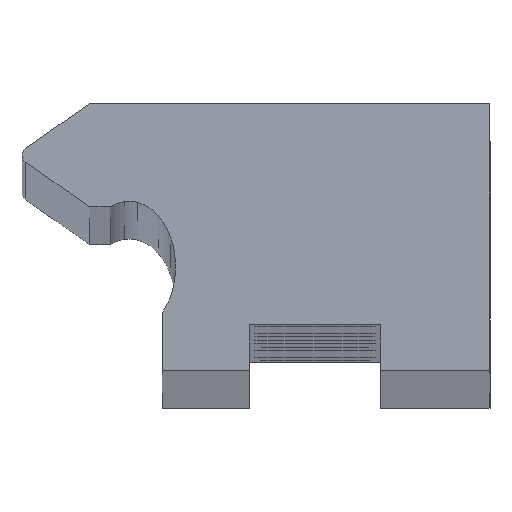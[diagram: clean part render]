
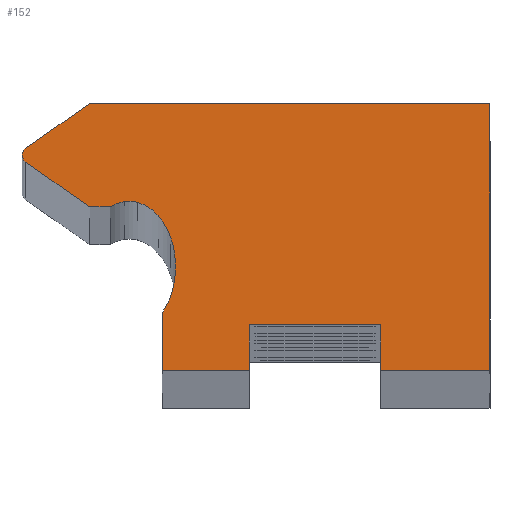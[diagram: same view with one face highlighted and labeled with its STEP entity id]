
A CAD part, top view. The second image highlights one B-rep face of the part: STEP entity #152.
In plain terms, the highlighted planar face has unit normal (0, 0, 1).
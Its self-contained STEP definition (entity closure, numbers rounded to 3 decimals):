
#152=ADVANCED_FACE('',(#341),#342,.F.);
#341=FACE_OUTER_BOUND('',#530,.T.);
#342=PLANE('',#531);
#530=EDGE_LOOP('',(#1132,#1133,#1134,#1135,#1136,#1137,#1138,#1139,#1140,#1141,#1142,#1143,#1144,#1145,#1146,#1147,#1148,#1149,#1150,#1151,#1152));
#531=AXIS2_PLACEMENT_3D('',#1153,#1154,#1155);
#1132=ORIENTED_EDGE('',*,*,#1350,.F.);
#1133=ORIENTED_EDGE('',*,*,#1298,.F.);
#1134=ORIENTED_EDGE('',*,*,#1302,.F.);
#1135=ORIENTED_EDGE('',*,*,#1305,.F.);
#1136=ORIENTED_EDGE('',*,*,#1307,.F.);
#1137=ORIENTED_EDGE('',*,*,#1161,.F.);
#1138=ORIENTED_EDGE('',*,*,#1310,.F.);
#1139=ORIENTED_EDGE('',*,*,#1313,.F.);
#1140=ORIENTED_EDGE('',*,*,#1316,.F.);
#1141=ORIENTED_EDGE('',*,*,#1319,.T.);
#1142=ORIENTED_EDGE('',*,*,#1322,.T.);
#1143=ORIENTED_EDGE('',*,*,#1325,.T.);
#1144=ORIENTED_EDGE('',*,*,#1328,.T.);
#1145=ORIENTED_EDGE('',*,*,#1331,.T.);
#1146=ORIENTED_EDGE('',*,*,#1332,.T.);
#1147=ORIENTED_EDGE('',*,*,#1159,.T.);
#1148=ORIENTED_EDGE('',*,*,#1336,.T.);
#1149=ORIENTED_EDGE('',*,*,#1339,.F.);
#1150=ORIENTED_EDGE('',*,*,#1342,.F.);
#1151=ORIENTED_EDGE('',*,*,#1345,.F.);
#1152=ORIENTED_EDGE('',*,*,#1348,.F.);
#1153=CARTESIAN_POINT('',(-2.61,13.011,1976.0));
#1154=DIRECTION('',(0.,0.0,-1.0));
#1155=DIRECTION('',(-1.0,0.0,0.));
#1159=EDGE_CURVE('',#1352,#1356,#1358,.T.);
#1161=EDGE_CURVE('',#1359,#1362,#1363,.T.);
#1298=EDGE_CURVE('',#1590,#1592,#1593,.T.);
#1302=EDGE_CURVE('',#1597,#1590,#1599,.T.);
#1305=EDGE_CURVE('',#1602,#1597,#1604,.T.);
#1307=EDGE_CURVE('',#1362,#1602,#1606,.T.);
#1310=EDGE_CURVE('',#1609,#1359,#1611,.T.);
#1313=EDGE_CURVE('',#1614,#1609,#1616,.T.);
#1316=EDGE_CURVE('',#1619,#1614,#1621,.T.);
#1319=EDGE_CURVE('',#1619,#1624,#1626,.T.);
#1322=EDGE_CURVE('',#1624,#1629,#1631,.T.);
#1325=EDGE_CURVE('',#1629,#1634,#1636,.T.);
#1328=EDGE_CURVE('',#1634,#1639,#1641,.T.);
#1331=EDGE_CURVE('',#1639,#1644,#1646,.T.);
#1332=EDGE_CURVE('',#1644,#1352,#1647,.T.);
#1336=EDGE_CURVE('',#1356,#1651,#1653,.T.);
#1339=EDGE_CURVE('',#1656,#1651,#1658,.T.);
#1342=EDGE_CURVE('',#1661,#1656,#1663,.T.);
#1345=EDGE_CURVE('',#1666,#1661,#1668,.T.);
#1348=EDGE_CURVE('',#1671,#1666,#1673,.T.);
#1350=EDGE_CURVE('',#1592,#1671,#1675,.T.);
#1352=VERTEX_POINT('',#1677);
#1356=VERTEX_POINT('',#1682);
#1358=CIRCLE('',#1685,8.382);
#1359=VERTEX_POINT('',#1686);
#1362=VERTEX_POINT('',#1690);
#1363=CIRCLE('',#1691,0.76);
#1590=VERTEX_POINT('',#1964);
#1592=VERTEX_POINT('',#1967);
#1593=LINE('',#1968,#1969);
#1597=VERTEX_POINT('',#1975);
#1599=LINE('',#1978,#1979);
#1602=VERTEX_POINT('',#1983);
#1604=LINE('',#1986,#1987);
#1606=LINE('',#1990,#1991);
#1609=VERTEX_POINT('',#1994);
#1611=CIRCLE('',#1997,0.76);
#1614=VERTEX_POINT('',#2001);
#1616=LINE('',#2004,#2005);
#1619=VERTEX_POINT('',#2009);
#1621=LINE('',#2012,#2013);
#1624=VERTEX_POINT('',#2016);
#1626=CIRCLE('',#2019,3.254);
#1629=VERTEX_POINT('',#2022);
#1631=CIRCLE('',#2025,3.015);
#1634=VERTEX_POINT('',#2028);
#1636=CIRCLE('',#2031,3.727);
#1639=VERTEX_POINT('',#2034);
#1641=CIRCLE('',#2037,5.727);
#1644=VERTEX_POINT('',#2040);
#1646=CIRCLE('',#2043,7.821);
#1647=CIRCLE('',#2044,8.382);
#1651=VERTEX_POINT('',#2048);
#1653=CIRCLE('',#2051,6.966);
#1656=VERTEX_POINT('',#2055);
#1658=LINE('',#2058,#2059);
#1661=VERTEX_POINT('',#2063);
#1663=LINE('',#2066,#2067);
#1666=VERTEX_POINT('',#2071);
#1668=LINE('',#2074,#2075);
#1671=VERTEX_POINT('',#2079);
#1673=LINE('',#2082,#2083);
#1675=LINE('',#2086,#2087);
#1677=CARTESIAN_POINT('',(-12.76,9.493,1976.0));
#1682=CARTESIAN_POINT('',(-13.018,7.428,1976.0));
#1685=AXIS2_PLACEMENT_3D('',#2093,#2094,#2095);
#1686=CARTESIAN_POINT('',(-26.805,19.7,1976.0));
#1690=CARTESIAN_POINT('',(-26.481,20.323,1976.0));
#1691=AXIS2_PLACEMENT_3D('',#2097,#2098,#2099);
#1964=CARTESIAN_POINT('',(16.,0.0,1976.0));
#1967=CARTESIAN_POINT('',(6.,0.0,1976.0));
#1968=CARTESIAN_POINT('',(16.,0.0,1976.0));
#1969=VECTOR('',#2414,1.0);
#1975=CARTESIAN_POINT('',(16.,24.41,1976.0));
#1978=CARTESIAN_POINT('',(16.,24.41,1976.0));
#1979=VECTOR('',#2418,1.0);
#1983=CARTESIAN_POINT('',(-20.643,24.41,1976.0));
#1986=CARTESIAN_POINT('',(-20.643,24.41,1976.0));
#1987=VECTOR('',#2421,1.0);
#1990=CARTESIAN_POINT('',(-26.481,20.323,1976.0));
#1991=VECTOR('',#2423,1.0);
#1994=CARTESIAN_POINT('',(-26.481,19.077,1976.0));
#1997=AXIS2_PLACEMENT_3D('',#2428,#2429,#2430);
#2001=CARTESIAN_POINT('',(-20.629,14.98,1976.0));
#2004=CARTESIAN_POINT('',(-20.629,14.98,1976.0));
#2005=VECTOR('',#2433,1.0);
#2009=CARTESIAN_POINT('',(-18.711,14.98,1976.0));
#2012=CARTESIAN_POINT('',(-18.711,14.98,1976.0));
#2013=VECTOR('',#2436,1.0);
#2016=CARTESIAN_POINT('',(-17.428,15.459,1976.0));
#2019=AXIS2_PLACEMENT_3D('',#2441,#2442,#2443);
#2022=CARTESIAN_POINT('',(-16.233,15.391,1976.0));
#2025=AXIS2_PLACEMENT_3D('',#2448,#2449,#2450);
#2028=CARTESIAN_POINT('',(-14.354,14.178,1976.0));
#2031=AXIS2_PLACEMENT_3D('',#2455,#2456,#2457);
#2034=CARTESIAN_POINT('',(-13.228,12.23,1976.0));
#2037=AXIS2_PLACEMENT_3D('',#2462,#2463,#2464);
#2040=CARTESIAN_POINT('',(-12.768,9.855,1976.0));
#2043=AXIS2_PLACEMENT_3D('',#2469,#2470,#2471);
#2044=AXIS2_PLACEMENT_3D('',#2472,#2473,#2474);
#2048=CARTESIAN_POINT('',(-14.,5.25,1976.0));
#2051=AXIS2_PLACEMENT_3D('',#2482,#2483,#2484);
#2055=CARTESIAN_POINT('',(-14.,0.0,1976.0));
#2058=CARTESIAN_POINT('',(-14.,0.0,1976.0));
#2059=VECTOR('',#2487,1.0);
#2063=CARTESIAN_POINT('',(-6.,0.0,1976.0));
#2066=CARTESIAN_POINT('',(-6.,0.0,1976.0));
#2067=VECTOR('',#2490,1.0);
#2071=CARTESIAN_POINT('',(-6.,4.2,1976.0));
#2074=CARTESIAN_POINT('',(-6.,4.2,1976.0));
#2075=VECTOR('',#2493,1.0);
#2079=CARTESIAN_POINT('',(6.,4.2,1976.0));
#2082=CARTESIAN_POINT('',(6.,4.2,1976.0));
#2083=VECTOR('',#2496,1.0);
#2086=CARTESIAN_POINT('',(6.,0.0,1976.0));
#2087=VECTOR('',#2498,1.0);
#2093=CARTESIAN_POINT('',(-21.142,9.493,1976.0));
#2094=DIRECTION('',(0.,0.0,-1.0));
#2095=DIRECTION('',(-1.0,0.0,0.));
#2097=CARTESIAN_POINT('',(-26.045,19.7,1976.0));
#2098=DIRECTION('',(0.,0.0,-1.0));
#2099=DIRECTION('',(-1.0,0.0,0.));
#2414=DIRECTION('',(-1.0,0.0,0.));
#2418=DIRECTION('',(0.0,-1.0,-0.0));
#2421=DIRECTION('',(1.0,0.0,0.));
#2423=DIRECTION('',(0.819,0.574,0.));
#2428=CARTESIAN_POINT('',(-26.045,19.7,1976.0));
#2429=DIRECTION('',(0.,0.0,-1.0));
#2430=DIRECTION('',(-1.0,0.0,0.));
#2433=DIRECTION('',(-0.819,0.574,0.));
#2436=DIRECTION('',(-1.0,0.0,0.));
#2441=CARTESIAN_POINT('',(-16.956,12.24,1976.0));
#2442=DIRECTION('',(0.,0.0,-1.0));
#2443=DIRECTION('',(-1.0,0.0,0.));
#2448=CARTESIAN_POINT('',(-16.999,12.475,1976.0));
#2449=DIRECTION('',(0.,0.0,-1.0));
#2450=DIRECTION('',(-1.0,0.0,0.));
#2455=CARTESIAN_POINT('',(-17.221,11.798,1976.0));
#2456=DIRECTION('',(0.,0.0,-1.0));
#2457=DIRECTION('',(-1.0,0.0,0.));
#2462=CARTESIAN_POINT('',(-18.653,10.394,1976.0));
#2463=DIRECTION('',(0.,0.0,-1.0));
#2464=DIRECTION('',(-1.0,0.0,0.));
#2469=CARTESIAN_POINT('',(-20.584,9.573,1976.0));
#2470=DIRECTION('',(0.,0.0,-1.0));
#2471=DIRECTION('',(-1.0,0.0,0.));
#2472=CARTESIAN_POINT('',(-21.142,9.493,1976.0));
#2473=DIRECTION('',(0.,0.0,-1.0));
#2474=DIRECTION('',(-1.0,0.0,0.));
#2482=CARTESIAN_POINT('',(-19.766,9.159,1976.0));
#2483=DIRECTION('',(0.,0.0,-1.0));
#2484=DIRECTION('',(-1.0,0.0,0.));
#2487=DIRECTION('',(0.0,1.0,0.0));
#2490=DIRECTION('',(-1.0,0.0,0.));
#2493=DIRECTION('',(0.0,-1.0,-0.0));
#2496=DIRECTION('',(-1.0,0.0,0.));
#2498=DIRECTION('',(0.0,1.0,0.0));
